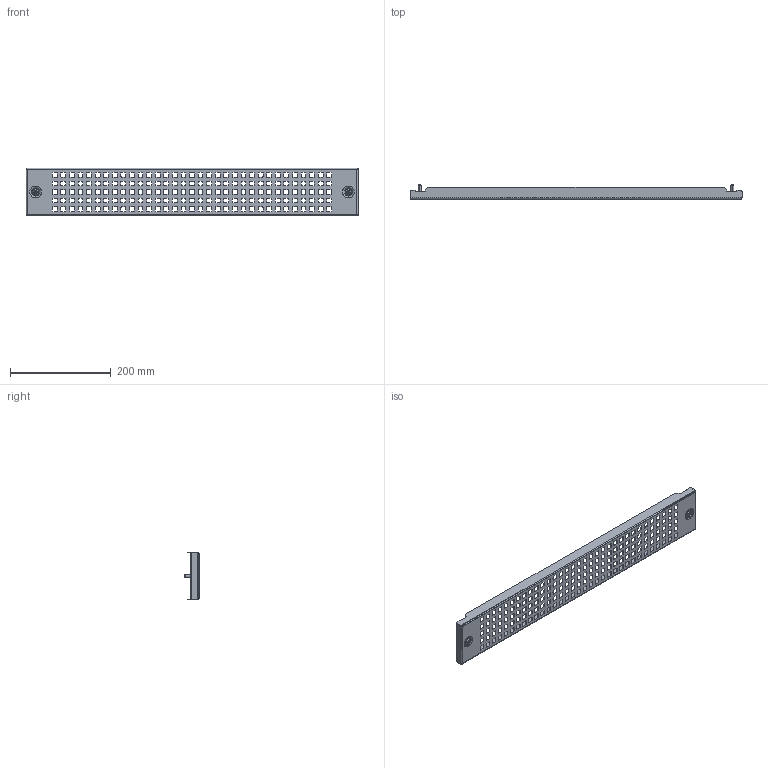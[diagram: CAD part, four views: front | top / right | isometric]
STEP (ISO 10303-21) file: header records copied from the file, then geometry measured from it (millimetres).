
FILE_DESCRIPTION (( 'STEP AP203' ), '1' );
FILE_NAME ('Z 100.800 IP Ïàíåëü áîêîâàÿ ñ âåíòèëÿöèåé öîêîëÿ òåëåêîììóíèêàöèîííîãî.STEP', '2013-01-12T07:22:18', ( 'System' ), ( '' ), 'SwSTEP 2.0', 'SolidWorks 2012', '' );
FILE_SCHEMA (( 'CONFIG_CONTROL_DESIGN' ));
Length unit declared in the file: millimetre
Products named in the file (1): Z 100.800 IP Ïàíåëü áîêîâàÿ ñ âåíòèëÿöèåé öîêîëÿ òåëåêîììóíèêàöèîííîãî
Bounding box: 658 x 28.02 x 94 mm (x, y, z)
Volume: 96338.6 mm3; surface area: 168228.9 mm2
Topology: 3 solids, 3 shells, 1454 faces, 4276 edges, 2834 vertices
Faces by surface type: plane 726, cylinder 684, torus 24, cone 16, sphere 4
Entity records: 49433 total; most frequent: DIRECTION 8626, CARTESIAN_POINT 8585, ORIENTED_EDGE 8544, EDGE_CURVE 4272, AXIS2_PLACEMENT_3D 2907, VERTEX_POINT 2834, VECTOR 2812, LINE 2812
